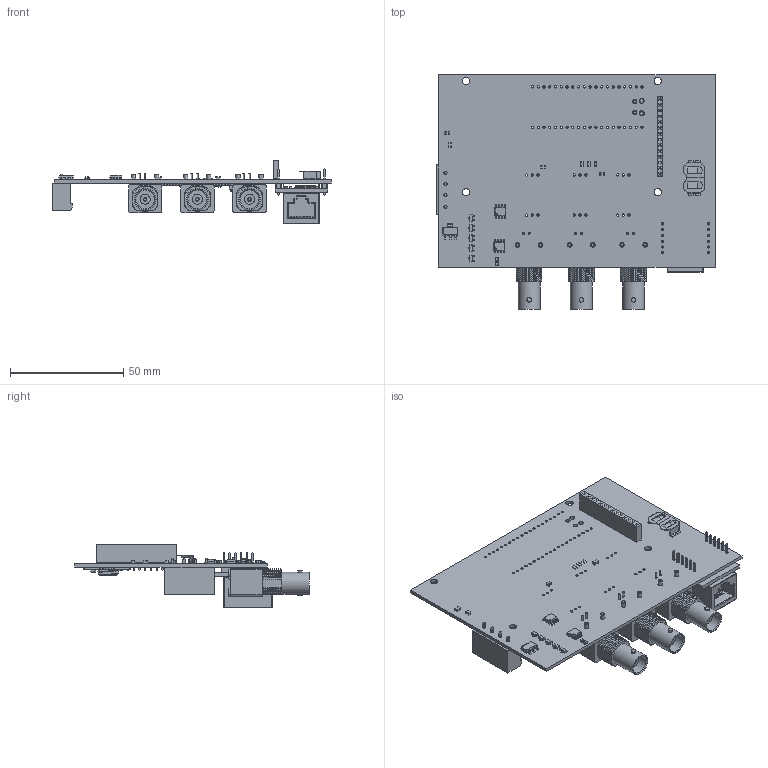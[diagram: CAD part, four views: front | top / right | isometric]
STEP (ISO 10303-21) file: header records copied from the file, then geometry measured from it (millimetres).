
FILE_DESCRIPTION(('KiCad electronic assembly'),'2;1');
FILE_NAME('tank1d.step','2026-07-07T11:35:25',('Pcbnew'),('Kicad'), 'Open CASCADE STEP processor 7.5','KiCad to STEP converter','Unknown' );
FILE_SCHEMA(('AUTOMOTIVE_DESIGN { 1 0 10303 214 1 1 1 1 }'));
Length unit declared in the file: millimetre
Products named in the file (18): tank1d 1; SOT-23; C_0805_2012Metric; SOT-223; FC-135R_L3.2-W1.5; BatteryHolder_LINX_BAT-HLD-012-SMT; R_0805_2012Metric; SOIC-8_3.9x4.9mm_P1.27mm; PinSocket_1x14_P2.54mm_Vertical; PhoenixContact_MSTBVA_2,5_4-G_1x04_P5.00mm_Vertical; BNC_Amphenol_B6252HB-NPP3G-50_Horizontal; w5500-lite; COMPOUND; RaspberryPi_Pico; RaspberryPi_Pico_Module_KiCad; tank1_PCB
Assembly tree (29 placements, depth 3):
  tank1d 1
    SOT-23  x5
    C_0805_2012Metric  x4
    SOT-223
    FC-135R_L3.2-W1.5
    BatteryHolder_LINX_BAT-HLD-012-SMT
    R_0805_2012Metric  x3
    SOIC-8_3.9x4.9mm_P1.27mm  x2
    PinSocket_1x14_P2.54mm_Vertical
    PhoenixContact_MSTBVA_2,5_4-G_1x04_P5.00mm_Vertical
    BNC_Amphenol_B6252HB-NPP3G-50_Horizontal  x3
    w5500-lite
      COMPOUND
      COMPOUND
      COMPOUND
    RaspberryPi_Pico
      RaspberryPi_Pico_Module_KiCad
    tank1_PCB
Bounding box: 122.7 x 103.48 x 28.12 mm (x, y, z)
Volume: 32405 mm3; surface area: 43942.9 mm2
Topology: 108 solids, 244 shells, 4938 faces, 13197 edges, 8792 vertices
Faces by surface type: plane 3068, bspline 1184, cylinder 636, cone 34, torus 16
Full cylindrical faces by diameter (mm): 0.67 x12, 0.89 x6, 1 x127, 1.3 x3, 1.4 x4, 1.6 x3, 1.8 x6, 1.85 x2, 2 x12, 2.01 x6, 2.1 x4, 2.2 x2, 2.5 x6, 3.2 x13, 3.5 x3, 3.8 x3, 4.4 x3, 8.25 x3, 9.65 x3
Entity records: 136047 total; most frequent: CARTESIAN_POINT 51178, ORIENTED_EDGE 20316, DIRECTION 12263, EDGE_CURVE 10479, VERTEX_POINT 7048, B_SPLINE_CURVE_WITH_KNOTS 4442, FACE_BOUND 4371, EDGE_LOOP 4369
